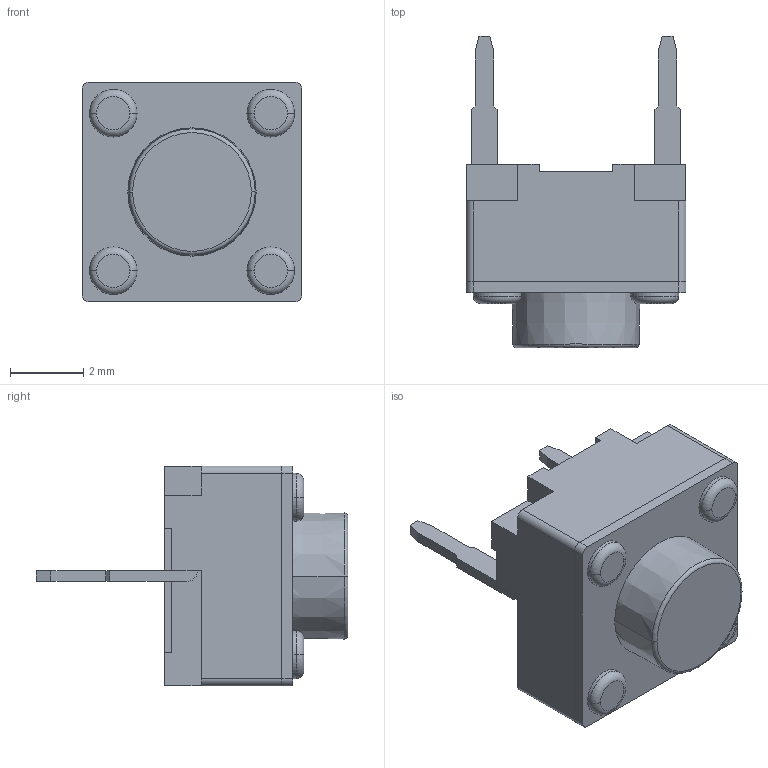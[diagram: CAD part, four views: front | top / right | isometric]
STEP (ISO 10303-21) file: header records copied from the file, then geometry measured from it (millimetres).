
FILE_DESCRIPTION((''),'2;1');
FILE_NAME('JQE6060-C0501-01G-104_ASM','2026-10-08T19:28:58',('Admin'),(''),'CREO PARAMETRIC BY PTC INC, 2019224','CREO PARAMETRIC BY PTC INC, 2019224','');
FILE_SCHEMA(('AUTOMOTIVE_DESIGN { 1 0 10303 214 1 1 1 1 }'));
Length unit declared in the file: millimetre
Products named in the file (3): JQE6060-C0501-01G-104_01; JQE6060-C0501-01G-104_02; JQE6060-C0501-01G-104_ASM
Assembly tree (2 placements, depth 2):
  JQE6060-C0501-01G-104_ASM
    JQE6060-C0501-01G-104_01
    JQE6060-C0501-01G-104_02
Bounding box: 6 x 8.5 x 6 mm (x, y, z)
Volume: 130.7 mm3; surface area: 258.7 mm2
Topology: 2 solids, 2 shells, 115 faces, 302 edges, 210 vertices
Faces by surface type: plane 67, cylinder 36, torus 10, cone 2
Entity records: 4797 total; most frequent: DIRECTION 650, CARTESIAN_POINT 625, ORIENTED_EDGE 584, EDGE_CURVE 292, PRESENTATION_STYLE_ASSIGNMENT 276, STYLED_ITEM 252, CURVE_STYLE 251, AXIS2_PLACEMENT_3D 222
